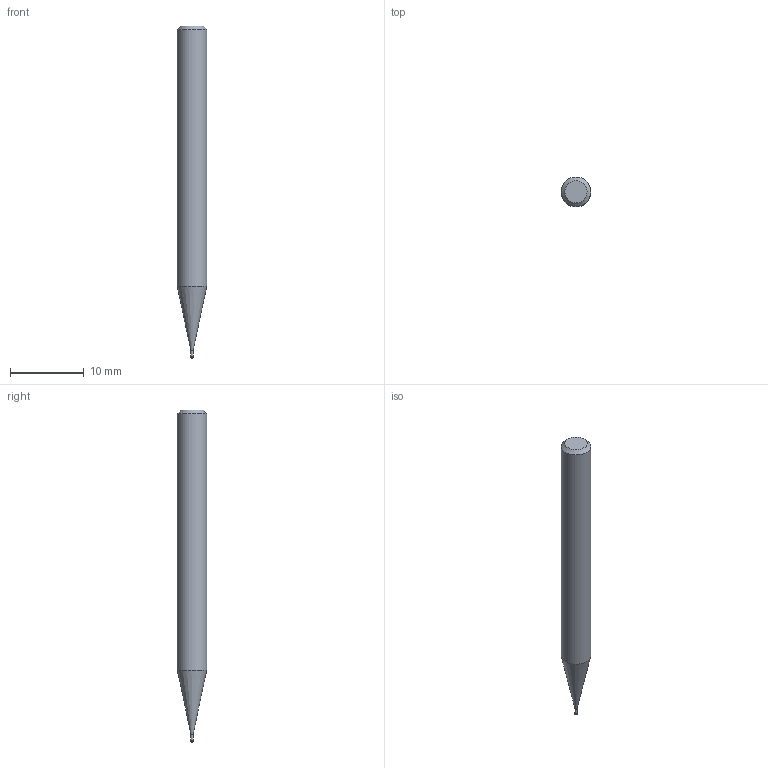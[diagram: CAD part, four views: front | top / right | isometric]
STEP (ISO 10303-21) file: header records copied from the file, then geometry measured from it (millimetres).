
FILE_DESCRIPTION((''),'2;1');
FILE_NAME('C:\Users\nsx150\AppData\Local\Temp\Mastercam 2021\3SYKECWX22\TEMP.step','2021-04-22T09:36:21',(''),(''),'STEP Write','Mastercam 2021 ... CNC Software, Inc.','');
FILE_SCHEMA(('AUTOMOTIVE_DESIGN'));
Length unit declared in the file: millimetre
Products named in the file (1): None
Bounding box: 4 x 4 x 45 mm (x, y, z)
Volume: 481 mm3; surface area: 512.7 mm2
Topology: 2 solids, 2 shells, 10 faces, 14 edges, 8 vertices
Faces by surface type: plane 4, cylinder 3, cone 2, torus 1
Full cylindrical faces by diameter (mm): 0.28 x1, 0.3 x1, 4 x1
Entity records: 232 total; most frequent: DIRECTION 40, CARTESIAN_POINT 28, AXIS2_PLACEMENT_3D 20, ORIENTED_EDGE 16, EDGE_LOOP 16, STYLED_ITEM 13, ADVANCED_FACE 10, FACE_BOUND 10
